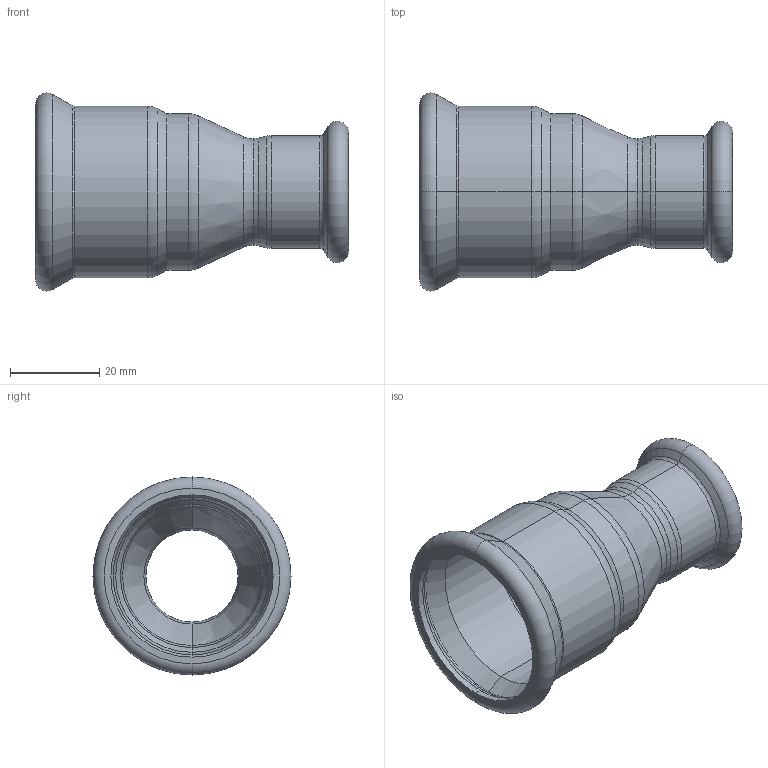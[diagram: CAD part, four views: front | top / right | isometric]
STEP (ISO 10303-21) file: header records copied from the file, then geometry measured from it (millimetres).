
FILE_DESCRIPTION (( 'STEP AP214' ), '1' );
FILE_NAME ('R352200.STEP', '2025-08-17T15:13:04', ( '' ), ( '' ), 'SwSTEP 2.0', 'SolidWorks 2020', '' );
FILE_SCHEMA (( 'AUTOMOTIVE_DESIGN' ));
Length unit declared in the file: millimetre
Products named in the file (1): R352200
Bounding box: 70 x 44.3 x 44.3 mm (x, y, z)
Volume: 12154.2 mm3; surface area: 15886.6 mm2
Topology: 1 solids, 1 shells, 76 faces, 152 edges, 80 vertices
Faces by surface type: torus 36, cone 20, cylinder 16, plane 4
Entity records: 2746 total; most frequent: DIRECTION 422, CARTESIAN_POINT 309, ORIENTED_EDGE 304, AXIS2_PLACEMENT_3D 193, EDGE_CURVE 152, CIRCLE 116, VERTEX_POINT 80, EDGE_LOOP 80
